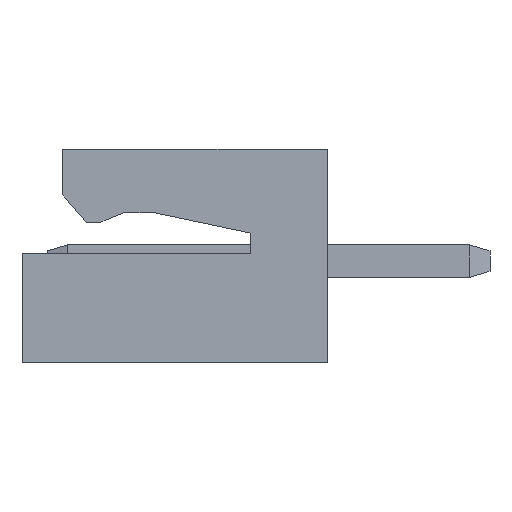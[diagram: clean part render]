
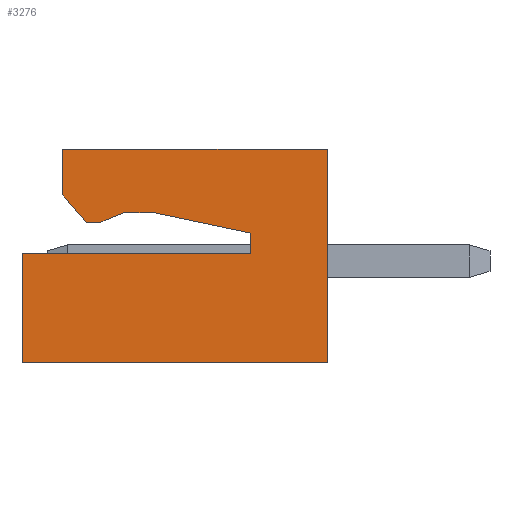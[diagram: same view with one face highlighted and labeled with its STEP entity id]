
A CAD part, left-side view. The second image highlights one B-rep face of the part: STEP entity #3276.
In plain terms, the highlighted planar face has unit normal (-1, 0, 0).
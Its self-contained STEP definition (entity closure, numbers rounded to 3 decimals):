
#1=DIRECTION('',(0.,0.,1.));
#2=VECTOR('',#1,0.9);
#3=CARTESIAN_POINT('',(0.,-0.8,-0.9));
#4=LINE('',#3,#2);
#5=DIRECTION('',(0.,0.,1.));
#6=VECTOR('',#5,0.4);
#7=CARTESIAN_POINT('',(0.,-4.5,-2.05));
#8=LINE('',#7,#6);
#9=DIRECTION('',(0.,0.979,0.206));
#10=VECTOR('',#9,1.942);
#11=CARTESIAN_POINT('',(0.,-4.5,-1.65));
#12=LINE('',#11,#10);
#13=DIRECTION('',(0.,1.,0.));
#14=VECTOR('',#13,0.6);
#15=CARTESIAN_POINT('',(0.,-2.6,-1.25));
#16=LINE('',#15,#14);
#17=DIRECTION('',(0.,0.926,-0.378));
#18=VECTOR('',#17,0.529);
#19=CARTESIAN_POINT('',(0.,-2.,-1.25));
#20=LINE('',#19,#18);
#21=DIRECTION('',(0.,1.,0.));
#22=VECTOR('',#21,0.24);
#23=CARTESIAN_POINT('',(0.,-1.51,-1.45));
#24=LINE('',#23,#22);
#25=DIRECTION('',(0.,0.65,0.76));
#26=VECTOR('',#25,0.723);
#27=CARTESIAN_POINT('',(0.,-1.27,-1.45));
#28=LINE('',#27,#26);
#89=DIRECTION('',(0.,1.,0.));
#90=VECTOR('',#89,5.2);
#91=CARTESIAN_POINT('',(0.,-6.,0.));
#92=LINE('',#91,#90);
#1721=DIRECTION('',(0.,0.,-1.));
#1722=VECTOR('',#1721,2.15);
#1723=CARTESIAN_POINT('',(0.,0.,-2.05));
#1724=LINE('',#1723,#1722);
#1745=DIRECTION('',(0.,1.,0.));
#1746=VECTOR('',#1745,4.5);
#1747=CARTESIAN_POINT('',(0.,-4.5,-2.05));
#1748=LINE('',#1747,#1746);
#1821=DIRECTION('',(0.,-1.,0.));
#1822=VECTOR('',#1821,6.);
#1823=CARTESIAN_POINT('',(0.,0.,-4.2));
#1824=LINE('',#1823,#1822);
#1849=DIRECTION('',(0.,0.,1.));
#1850=VECTOR('',#1849,4.2);
#1851=CARTESIAN_POINT('',(0.,-6.,-4.2));
#1852=LINE('',#1851,#1850);
#2445=CARTESIAN_POINT('',(0.,-0.8,-0.9));
#2446=CARTESIAN_POINT('',(0.,-0.8,0.));
#2447=VERTEX_POINT('',#2445);
#2448=VERTEX_POINT('',#2446);
#2449=CARTESIAN_POINT('',(0.,-6.,0.));
#2450=VERTEX_POINT('',#2449);
#2451=CARTESIAN_POINT('',(0.,-6.,-4.2));
#2452=VERTEX_POINT('',#2451);
#2453=CARTESIAN_POINT('',(0.,0.,-4.2));
#2454=VERTEX_POINT('',#2453);
#2455=CARTESIAN_POINT('',(0.,0.,-2.05));
#2456=VERTEX_POINT('',#2455);
#2457=CARTESIAN_POINT('',(0.,-4.5,-2.05));
#2458=VERTEX_POINT('',#2457);
#2459=CARTESIAN_POINT('',(0.,-4.5,-1.65));
#2460=VERTEX_POINT('',#2459);
#2461=CARTESIAN_POINT('',(0.,-2.6,-1.25));
#2462=VERTEX_POINT('',#2461);
#2463=CARTESIAN_POINT('',(0.,-2.,-1.25));
#2464=VERTEX_POINT('',#2463);
#2465=CARTESIAN_POINT('',(0.,-1.51,-1.45));
#2466=VERTEX_POINT('',#2465);
#2467=CARTESIAN_POINT('',(0.,-1.27,-1.45));
#2468=VERTEX_POINT('',#2467);
#3245=CARTESIAN_POINT('',(0.,0.,0.));
#3246=DIRECTION('',(1.,0.,0.));
#3247=DIRECTION('',(0.,-1.,0.));
#3248=AXIS2_PLACEMENT_3D('',#3245,#3246,#3247);
#3249=PLANE('',#3248);
#3251=ORIENTED_EDGE('',*,*,#3250,.T.);
#3253=ORIENTED_EDGE('',*,*,#3252,.F.);
#3255=ORIENTED_EDGE('',*,*,#3254,.F.);
#3257=ORIENTED_EDGE('',*,*,#3256,.F.);
#3259=ORIENTED_EDGE('',*,*,#3258,.F.);
#3261=ORIENTED_EDGE('',*,*,#3260,.F.);
#3263=ORIENTED_EDGE('',*,*,#3262,.T.);
#3265=ORIENTED_EDGE('',*,*,#3264,.T.);
#3267=ORIENTED_EDGE('',*,*,#3266,.T.);
#3269=ORIENTED_EDGE('',*,*,#3268,.T.);
#3271=ORIENTED_EDGE('',*,*,#3270,.T.);
#3273=ORIENTED_EDGE('',*,*,#3272,.T.);
#3274=EDGE_LOOP('',(#3251,#3253,#3255,#3257,#3259,#3261,#3263,#3265,#3267,#3269,
#3271,#3273));
#3275=FACE_OUTER_BOUND('',#3274,.F.);
#3250=EDGE_CURVE('',#2447,#2448,#4,.T.);
#3252=EDGE_CURVE('',#2450,#2448,#92,.T.);
#3254=EDGE_CURVE('',#2452,#2450,#1852,.T.);
#3256=EDGE_CURVE('',#2454,#2452,#1824,.T.);
#3258=EDGE_CURVE('',#2456,#2454,#1724,.T.);
#3260=EDGE_CURVE('',#2458,#2456,#1748,.T.);
#3262=EDGE_CURVE('',#2458,#2460,#8,.T.);
#3264=EDGE_CURVE('',#2460,#2462,#12,.T.);
#3266=EDGE_CURVE('',#2462,#2464,#16,.T.);
#3268=EDGE_CURVE('',#2464,#2466,#20,.T.);
#3270=EDGE_CURVE('',#2466,#2468,#24,.T.);
#3272=EDGE_CURVE('',#2468,#2447,#28,.T.);
#3276=ADVANCED_FACE('',(#3275),#3249,.F.);
